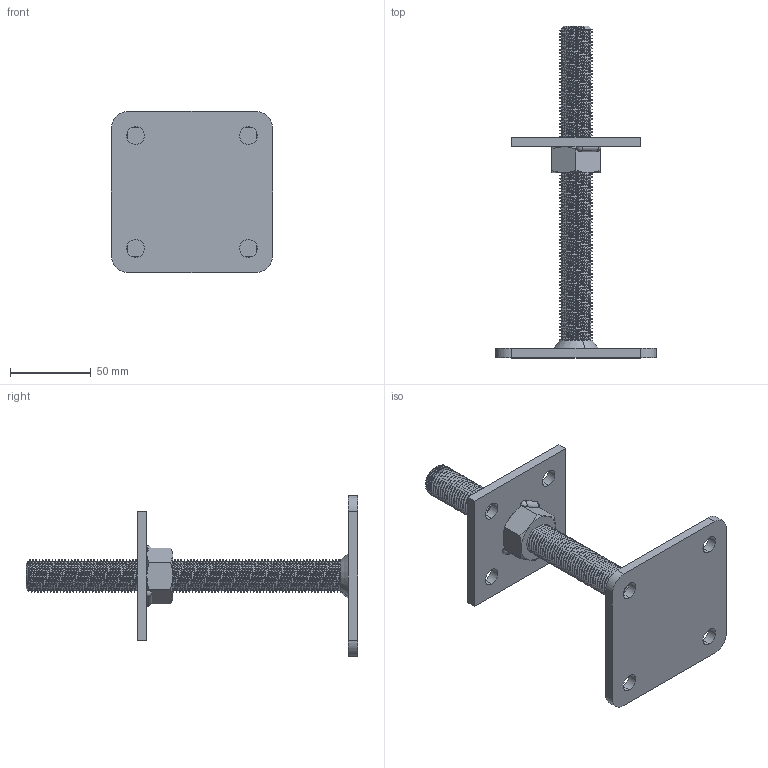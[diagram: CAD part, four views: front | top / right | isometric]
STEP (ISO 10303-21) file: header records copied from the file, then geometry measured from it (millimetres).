
FILE_DESCRIPTION (( 'STEP AP203' ), '1' );
FILE_NAME ('19823202.STEP', '2021-08-26T12:29:32', ( '' ), ( '' ), 'SwSTEP 2.0', 'SolidWorks 2013', '' );
FILE_SCHEMA (( 'CONFIG_CONTROL_DESIGN' ));
Length unit declared in the file: millimetre
Products named in the file (6): 19823202; Platte 100x100x6; Gewindestange M20x200; Mutter M16; Schweissnaht d20; Platte 80x80x6
Assembly tree (5 placements, depth 2):
  19823202
    Platte 100x100x6
    Schweissnaht d20
    Gewindestange M20x200
    Mutter M16
    Platte 80x80x6
Bounding box: 100 x 206 x 100 mm (x, y, z)
Volume: 155622.8 mm3; surface area: 61071.1 mm2
Topology: 5 solids, 5 shells, 288 faces, 812 edges, 529 vertices
Faces by surface type: cylinder 232, plane 33, cone 16, sphere 4, bspline 3
Entity records: 21415 total; most frequent: CARTESIAN_POINT 14505, ORIENTED_EDGE 1616, DIRECTION 1060, EDGE_CURVE 808, VERTEX_POINT 529, AXIS2_PLACEMENT_3D 388, EDGE_LOOP 309, FACE_OUTER_BOUND 288
